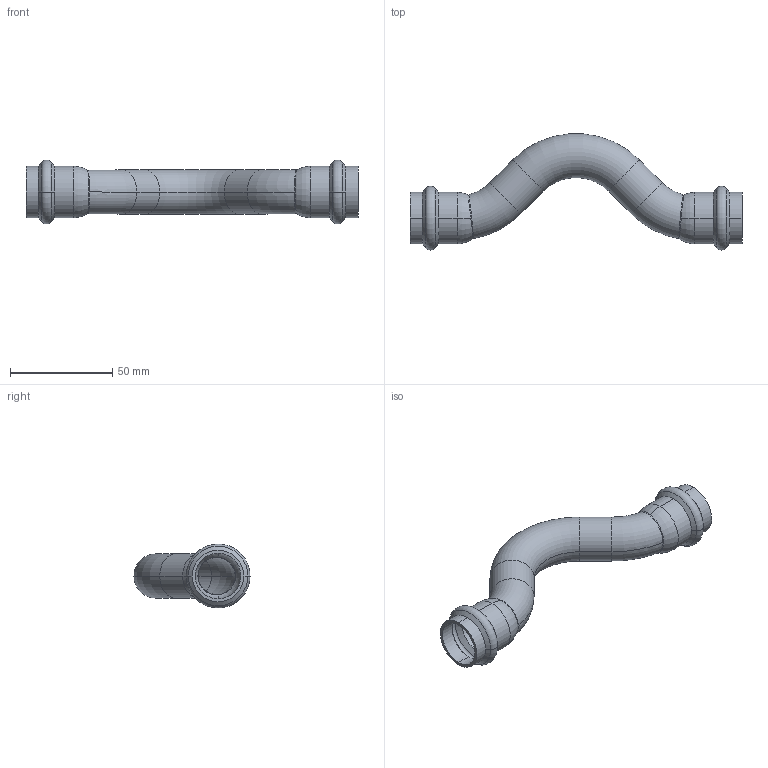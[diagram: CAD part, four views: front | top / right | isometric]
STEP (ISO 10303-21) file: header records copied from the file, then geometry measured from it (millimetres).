
FILE_DESCRIPTION (( 'STEP AP203' ), '1' );
FILE_NAME ('SP5085 Ø22.STEP', '2017-04-24T08:23:10', ( '' ), ( '' ), 'SwSTEP 2.0', 'SolidWorks 2016', '' );
FILE_SCHEMA (( 'CONFIG_CONTROL_DESIGN' ));
Length unit declared in the file: millimetre
Products named in the file (1): SP5085 ﾘ22
Bounding box: 162 x 56.68 x 31.2 mm (x, y, z)
Volume: 20196.3 mm3; surface area: 25450.2 mm2
Topology: 1 solids, 1 shells, 78 faces, 188 edges, 112 vertices
Faces by surface type: torus 28, cylinder 24, cone 16, bspline 8, plane 2
Entity records: 4166 total; most frequent: CARTESIAN_POINT 2272, DIRECTION 414, ORIENTED_EDGE 376, EDGE_CURVE 188, AXIS2_PLACEMENT_3D 187, CIRCLE 116, VERTEX_POINT 112, EDGE_LOOP 80
